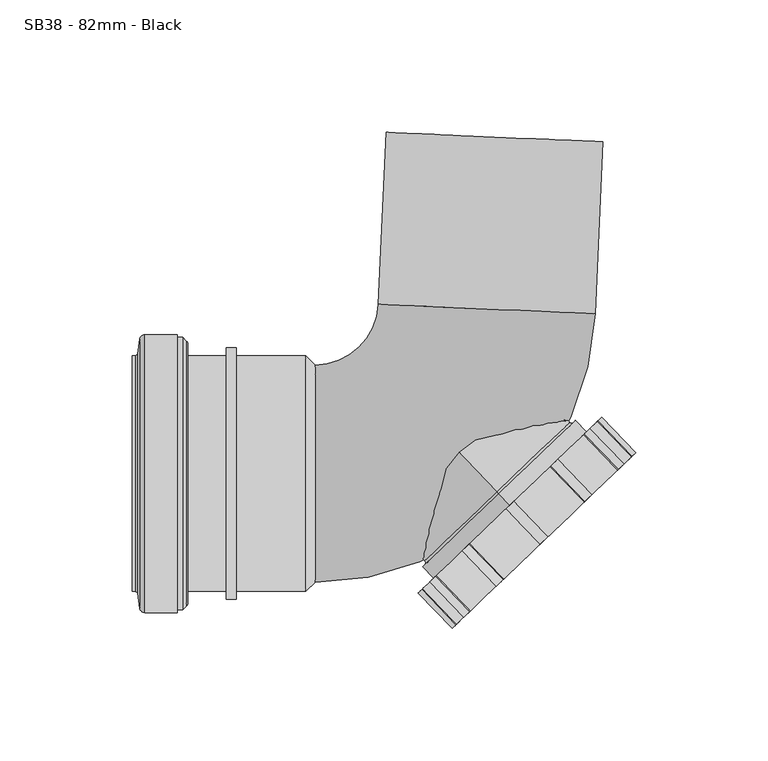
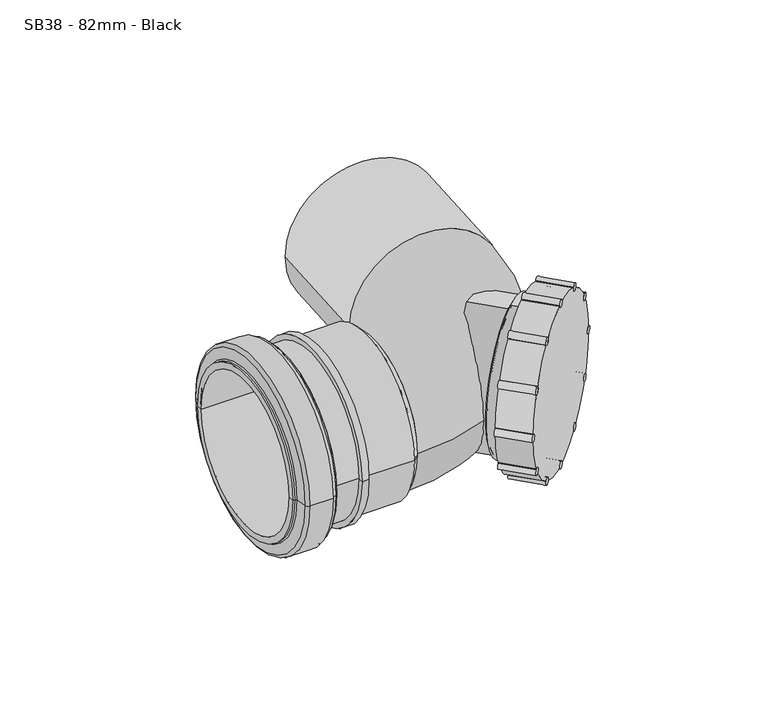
"""IFC4 building model written with IfcOpenShell, lengths in millimetres: pipe fitting geometry, MarleyPlumbingAndDrainage_PipeFitting_RearAccessBend : SB38 - 82mm - Black."""

import ifcopenshell
import ifcopenshell.guid

model = None  # the IFC model being written
_history = None  # IfcOwnerHistory: only IFC2X3 demands one
_inside = {}  # id of a spatial element -> (the spatial element, [elements in it])
_under = {}  # id of a project, library or spatial element -> (it, [spatial elements below it])
_declared = {}  # id of a project -> (the project, [libraries it declares])
_typed = {}  # id of a type object -> (the type object, [elements of that type])
_made_of = {}  # id of a material, layer set ... -> (it, [elements and type objects made of it])


def new_model(schema):
    """Start an empty IFC model of exactly this schema.

    Asked for "IFC4X3", IfcOpenShell would pick the latest addendum, in which some entities
    have other attributes; the version numbers below select the first issue.
    IFC2X3 requires an IfcOwnerHistory on every rooted entity: one is made here for all.
    """
    global model, _history
    if schema == "IFC4X3":
        model = ifcopenshell.file(schema_version=(4, 3, 0, 0))
    else:
        model = ifcopenshell.file(schema=schema)
    _inside.clear()
    _under.clear()
    _declared.clear()
    _typed.clear()
    _made_of.clear()
    _history = None
    if model.schema == "IFC2X3":
        org = make("IfcOrganization", Name="unknown")
        user = make(
            "IfcPersonAndOrganization",
            ThePerson=make("IfcPerson", FamilyName="unknown"),
            TheOrganization=org,
        )
        app = make(
            "IfcApplication",
            ApplicationDeveloper=org,
            Version="unknown",
            ApplicationFullName="unknown",
            ApplicationIdentifier="unknown",
        )
        _history = make(
            "IfcOwnerHistory",
            OwningUser=user,
            OwningApplication=app,
            ChangeAction="ADDED",
            CreationDate=0,
        )
    return model


def make(cls, **values):
    """One entity of the class cls with the attributes given. An attribute that is None is left unset."""
    return model.create_entity(
        cls, **{name: value for name, value in values.items() if value is not None}
    )


def rooted(cls, **values):
    """An entity with a GlobalId (a new one), such as an element, a storey or a relation."""
    return make(cls, GlobalId=ifcopenshell.guid.new(), OwnerHistory=_history, **values)


def si_unit(unit_type, name, prefix=None):
    """IfcSIUnit, for example si_unit("LENGTHUNIT", "METRE", prefix="MILLI")."""
    return make("IfcSIUnit", UnitType=unit_type, Prefix=prefix, Name=name)


def assignment(units):
    """IfcUnitAssignment: the units of a project."""
    return None if units is None else make("IfcUnitAssignment", Units=units)


def point(xyz):
    """IfcCartesianPoint."""
    return None if xyz is None else make("IfcCartesianPoint", Coordinates=xyz)


def direction(xyz):
    """IfcDirection."""
    return None if xyz is None else make("IfcDirection", DirectionRatios=xyz)


def frame(location, z_axis=None, x_axis=None):
    """IfcAxis2Placement3D, a coordinate frame: its origin and axes. An axis left out is left unset."""
    return make(
        "IfcAxis2Placement3D",
        Location=point(location),
        Axis=direction(z_axis),
        RefDirection=direction(x_axis),
    )


def frame_2d(location, x_axis=None):
    """IfcAxis2Placement2D, a coordinate frame in the plane: its origin and x axis."""
    return make(
        "IfcAxis2Placement2D", Location=point(location), RefDirection=direction(x_axis)
    )


def origin():
    """The frame at (0, 0, 0) with its axes left unset."""
    return frame((0.0, 0.0, 0.0))


def place(relative_to, where):
    """IfcLocalPlacement: puts the frame where relative to a parent placement (None: the world)."""
    return make(
        "IfcLocalPlacement", PlacementRelTo=relative_to, RelativePlacement=where
    )


def context(
    kind, dimensions, precision=None, world=None, true_north=None, identifier=None
):
    """IfcGeometricRepresentationContext, for example the 3D "Model" context."""
    return make(
        "IfcGeometricRepresentationContext",
        ContextIdentifier=identifier,
        ContextType=kind,
        CoordinateSpaceDimension=dimensions,
        Precision=precision,
        WorldCoordinateSystem=world,
        TrueNorth=true_north,
    )


def project(units=None, contexts=None):
    """IfcProject with its units and contexts."""
    return rooted(
        "IfcProject",
        Name="project",
        RepresentationContexts=contexts,
        UnitsInContext=assignment(units),
    )


def spatial(cls, under=None, at=None, **own):
    """A site, building, storey or space (cls), placed at a placement, below another one or the project."""
    s = rooted(cls, ObjectPlacement=at, **own)
    if under is not None:
        _under.setdefault(under.id(), (under, []))[1].append(s)
    return s


def polyline(points):
    """IfcPolyline through the points."""
    return make("IfcPolyline", Points=[point(p) for p in points])


def circle_curve(where, radius):
    """IfcCircle in the frame where."""
    return make("IfcCircle", Position=where, Radius=radius)


def ellipse_curve(where, semi_axis1, semi_axis2):
    """IfcEllipse in the frame where."""
    return make(
        "IfcEllipse", Position=where, SemiAxis1=semi_axis1, SemiAxis2=semi_axis2
    )


def trimmed(basis, trim1, trim2, sense, master):
    """IfcTrimmedCurve: the piece of a basis curve between two trims."""
    return make(
        "IfcTrimmedCurve",
        BasisCurve=basis,
        Trim1=trim1,
        Trim2=trim2,
        SenseAgreement=sense,
        MasterRepresentation=master,
    )


def segment(curve, same_sense, transition):
    """IfcCompositeCurveSegment."""
    return make(
        "IfcCompositeCurveSegment",
        Transition=transition,
        SameSense=same_sense,
        ParentCurve=curve,
    )


def composite_curve(segments, self_intersect=None):
    """IfcCompositeCurve: segments joined end to end."""
    return make("IfcCompositeCurve", Segments=segments, SelfIntersect=self_intersect)


def outline(outer, holes=None, kind="AREA"):
    """IfcArbitraryClosedProfileDef: a profile drawn as a closed curve; with holes, ...WithVoids."""
    if holes is None:
        return make("IfcArbitraryClosedProfileDef", ProfileType=kind, OuterCurve=outer)
    return make(
        "IfcArbitraryProfileDefWithVoids",
        ProfileType=kind,
        OuterCurve=outer,
        InnerCurves=holes,
    )


def extrude(swept, where, along, depth):
    """IfcExtrudedAreaSolid: the profile swept, set in the frame where, extruded along a direction by depth."""
    return make(
        "IfcExtrudedAreaSolid",
        SweptArea=swept,
        Position=where,
        ExtrudedDirection=direction(along),
        Depth=depth,
    )


def shape(context_of_items, identifier, shape_type, items):
    """IfcShapeRepresentation: the items that make up one representation, for example the "Body"."""
    return make(
        "IfcShapeRepresentation",
        ContextOfItems=context_of_items,
        RepresentationIdentifier=identifier,
        RepresentationType=shape_type,
        Items=items,
    )


def source(mapping_origin, context_of_items, identifier, shape_type, items):
    """IfcRepresentationMap: a shape defined once, which mapped items show again and again."""
    return make(
        "IfcRepresentationMap",
        MappingOrigin=mapping_origin,
        MappedRepresentation=shape(context_of_items, identifier, shape_type, items),
    )


def transform(
    local_origin,
    x_axis=None,
    y_axis=None,
    z_axis=None,
    scale=None,
    scale2=None,
    scale3=None,
    uniform=True,
):
    """IfcCartesianTransformationOperator3D, or its non-uniform kind. x_axis, y_axis, z_axis: its Axis1, 2, 3."""
    if uniform:
        return make(
            "IfcCartesianTransformationOperator3D",
            Axis1=direction(x_axis),
            Axis2=direction(y_axis),
            LocalOrigin=point(local_origin),
            Scale=scale,
            Axis3=direction(z_axis),
        )
    return make(
        "IfcCartesianTransformationOperator3DnonUniform",
        Axis1=direction(x_axis),
        Axis2=direction(y_axis),
        LocalOrigin=point(local_origin),
        Scale=scale,
        Axis3=direction(z_axis),
        Scale2=scale2,
        Scale3=scale3,
    )


def mapped(mapping_source, mapping_target):
    """IfcMappedItem: shows the shape of a source again, moved by a transform."""
    return make(
        "IfcMappedItem", MappingSource=mapping_source, MappingTarget=mapping_target
    )


def made_of(thing, what):
    """Note that an element or type object is made of a material, layer set ...; save() writes the relation."""
    if what is not None:
        _made_of.setdefault(what.id(), (what, []))[1].append(thing)
    return thing


def element(
    cls,
    number,
    at=None,
    inside=None,
    cuts=None,
    type_object=None,
    material=None,
    context=None,
    identifier="Body",
    shape_type=None,
    held_by="IfcProductDefinitionShape",
    body=None,
    shapes=None,
    **own,
):
    """One element of the class cls, such as IfcWall. Its Tag is "e" and its number.

    at: its placement. inside: the storey or other place that contains it. cuts: it is an
    opening in that element (IfcRelVoidsElement). A single representation is given by context,
    identifier, shape_type and body (its items); several are given by shapes. held_by: the class
    of the entity that holds the representations. save() writes the other relations.
    """
    e = rooted(cls, Tag="e%d" % number, ObjectPlacement=at, **own)
    if body is not None:
        shapes = [shape(context, identifier, shape_type, body)]
    if shapes is not None:
        e.Representation = make(held_by, Representations=shapes)
    if inside is not None:
        _inside.setdefault(inside.id(), (inside, []))[1].append(e)
    if cuts is not None:
        rooted(
            "IfcRelVoidsElement", RelatingBuildingElement=cuts, RelatedOpeningElement=e
        )
    if type_object is not None:
        _typed.setdefault(type_object.id(), (type_object, []))[1].append(e)
    return made_of(e, material)


def aggregate(whole, parts):
    """IfcRelAggregates: a whole, such as a stair, and the parts it consists of."""
    return rooted("IfcRelAggregates", RelatingObject=whole, RelatedObjects=parts)


def save(model, path):
    """Write the relations noted so far, then the file.

    IfcRelAggregates (storeys below a building ...), IfcRelContainedInSpatialStructure (elements
    in a storey), IfcRelDefinesByType, IfcRelAssociatesMaterial and IfcRelDeclares: one each for
    every whole, place, type object, material and project.
    """
    for whole, parts in _under.values():
        aggregate(whole, parts)
    for where, things in _inside.values():
        rooted(
            "IfcRelContainedInSpatialStructure",
            RelatedElements=things,
            RelatingStructure=where,
        )
    for kind, things in _typed.values():
        rooted("IfcRelDefinesByType", RelatedObjects=things, RelatingType=kind)
    for what, things in _made_of.values():
        rooted("IfcRelAssociatesMaterial", RelatedObjects=things, RelatingMaterial=what)
    for by, libraries in _declared.values():
        rooted("IfcRelDeclares", RelatingContext=by, RelatedDefinitions=libraries)
    model.write(path)


def plane_surface(at):
    """IfcPlane: the flat surface through the origin of the frame at, square to its z axis."""
    return make("IfcPlane", Position=at)


def cylinder_surface(at, radius):
    """IfcCylindricalSurface: all points at the distance radius from the z axis of the frame at."""
    return make("IfcCylindricalSurface", Position=at, Radius=radius)


def revolved_surface(curve, axis_point, axis_direction):
    """IfcSurfaceOfRevolution: the curve turned about the line through axis_point along axis_direction."""
    return make(
        "IfcSurfaceOfRevolution",
        SweptCurve=make("IfcArbitraryOpenProfileDef", ProfileType="CURVE", Curve=curve),
        AxisPosition=make("IfcAxis1Placement", Location=point(axis_point), Axis=direction(axis_direction)),
    )


def advanced_brep(points, edges, surfaces, faces):
    """IfcAdvancedBrep: a solid bounded by faces that lie on surfaces and meet in shared edges.

    An edge is (start, end): straight between two places in points (the first is 0);
    or (start, end, curve); or (start, end, curve, False) where it runs against its curve.
    A face is (place in surfaces, loops), or (place, loops, False) where it looks against
    its surface's normal. A loop lists edges by number (the first is 1), with a minus sign
    where the edge is run from its end to its start. The first loop is the outer one.
    """
    corners = [point(p) for p in points]
    vertices = [make("IfcVertexPoint", VertexGeometry=c) for c in corners]
    made = []
    for start, end, *more in edges:
        made.append(
            make(
                "IfcEdgeCurve",
                EdgeStart=vertices[start],
                EdgeEnd=vertices[end],
                EdgeGeometry=more[0] if more else make("IfcPolyline", Points=[corners[start], corners[end]]),
                SameSense=more[1] if len(more) > 1 else True,
            )
        )
    hull = []
    for where, loops, *sense in faces:
        bounds = []
        for j, loop in enumerate(loops):
            ring = [make("IfcOrientedEdge", EdgeElement=made[abs(k) - 1], Orientation=k > 0) for k in loop]
            bounds.append(
                make(
                    "IfcFaceOuterBound" if j == 0 else "IfcFaceBound",
                    Bound=make("IfcEdgeLoop", EdgeList=ring),
                    Orientation=True,
                )
            )
        hull.append(make("IfcAdvancedFace", Bounds=bounds, FaceSurface=surfaces[where], SameSense=sense[0] if sense else True))
    return make("IfcAdvancedBrep", Outer=make("IfcClosedShell", CfsFaces=hull))


def sb38_82mm_black_0876d828(model_context):
    return source(origin(), model_context, "Body", "SolidModel", [
        extrude(outline(composite_curve([segment(trimmed(circle_curve(frame_2d((0.0, -2.0)), 2.0), [point((0.0, -4.0))], [point((0.0, 0.0))], False, "CARTESIAN"), True, "CONTINUOUS"), segment(trimmed(circle_curve(frame_2d((0.0, -2.0)), 2.0), [point((0.0, 0.0))], [point((0.0, -4.0))], False, "CARTESIAN"), True, "CONTINUOUS")], self_intersect=False)), frame((52.1476795, 2.94394, 21.2679492), z_axis=(-0.6915130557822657, 0.7223639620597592, 0.0), x_axis=(0.6255855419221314, 0.5988678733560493, 0.4999999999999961)), (0.0, 0.0, 1.0), 18.5),
        extrude(outline(composite_curve([segment(trimmed(circle_curve(frame_2d((0.0, -2.0)), 2.0), [point((0.0, -4.0))], [point((0.0, 0.0))], False, "CARTESIAN"), True, "CONTINUOUS"), segment(trimmed(circle_curve(frame_2d((0.0, -2.0)), 2.0), [point((0.0, 0.0))], [point((0.0, -4.0))], False, "CARTESIAN"), True, "CONTINUOUS")], self_intersect=False)), frame((55.8771229, 6.5141053, -2.0), z_axis=(-0.6915130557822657, 0.7223639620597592, 0.0), x_axis=(0.7223639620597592, 0.6915130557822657, 0.0)), (0.0, 0.0, 1.0), 18.5),
        extrude(outline(composite_curve([segment(trimmed(circle_curve(frame_2d((0.0, -2.0)), 2.0), [point((0.0, -4.0))], [point((0.0, 0.0))], False, "CARTESIAN"), True, "CONTINUOUS"), segment(trimmed(circle_curve(frame_2d((0.0, -2.0)), 2.0), [point((0.0, 0.0))], [point((0.0, -4.0))], False, "CARTESIAN"), True, "CONTINUOUS")], self_intersect=False)), frame((50.7029516, 1.5609139, -24.7320508), z_axis=(-0.6915130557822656, 0.7223639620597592, 0.0), x_axis=(0.6255855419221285, 0.5988678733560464, -0.5000000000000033)), (0.0, 0.0, 1.0), 18.5),
        extrude(outline(composite_curve([segment(trimmed(circle_curve(frame_2d((0.0, -2.0)), 2.0), [point((0.0, -4.0))], [point((0.0, 0.0))], False, "CARTESIAN"), True, "CONTINUOUS"), segment(trimmed(circle_curve(frame_2d((0.0, -2.0)), 2.0), [point((0.0, 0.0))], [point((0.0, -4.0))], False, "CARTESIAN"), True, "CONTINUOUS")], self_intersect=False)), frame((38.0115807, -10.5884307, -40.8371686), z_axis=(-0.6915130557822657, 0.7223639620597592, 0.0), x_axis=(0.3611819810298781, 0.3457565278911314, -0.8660254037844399)), (0.0, 0.0, 1.0), 18.5),
        extrude(outline(composite_curve([segment(trimmed(circle_curve(frame_2d((0.0, -2.0)), 2.0), [point((0.0, -4.0000001))], [point((0.0, 0.0))], False, "CARTESIAN"), True, "CONTINUOUS"), segment(trimmed(circle_curve(frame_2d((0.0, -2.0)), 2.0), [point((0.0, 0.0))], [point((0.0, -4.0000001))], False, "CARTESIAN"), True, "CONTINUOUS")], self_intersect=False)), frame((21.2036527, -26.6785214, -46.0), z_axis=(-0.6915130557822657, 0.7223639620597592, 0.0), x_axis=(0.0, 0.0, -1.0)), (0.0, 0.0, 1.0), 18.5),
        extrude(outline(composite_curve([segment(trimmed(circle_curve(frame_2d((0.0, -2.0)), 2.0), [point((0.0, -4.0))], [point((0.0, 0.0))], False, "CARTESIAN"), True, "CONTINUOUS"), segment(trimmed(circle_curve(frame_2d((0.0, -2.0)), 2.0), [point((0.0, 0.0))], [point((0.0, -4.0))], False, "CARTESIAN"), True, "CONTINUOUS")], self_intersect=False)), frame((4.7828384, -42.3980313, -38.8371686), z_axis=(-0.6915130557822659, 0.7223639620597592, 0.0), x_axis=(-0.3611819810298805, -0.3457565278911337, -0.866025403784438)), (0.0, 0.0, 1.0), 18.5),
        extrude(outline(composite_curve([segment(trimmed(circle_curve(frame_2d((0.0, -2.0)), 2.0), [point((0.0, -4.0))], [point((0.0, 0.0))], False, "CARTESIAN"), True, "CONTINUOUS"), segment(trimmed(circle_curve(frame_2d((0.0, -2.0)), 2.0), [point((0.0, 0.0))], [point((0.0, -4.0))], False, "CARTESIAN"), True, "CONTINUOUS")], self_intersect=False)), frame((-6.8509182, -53.5349305, -21.2679492), z_axis=(-0.6915130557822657, 0.7223639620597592, 0.0), x_axis=(-0.6255855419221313, -0.5988678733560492, -0.4999999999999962)), (0.0, 0.0, 1.0), 18.5),
        extrude(outline(composite_curve([segment(trimmed(circle_curve(frame_2d((0.0, -2.0)), 2.0), [point((0.0, -4.0))], [point((0.0, 0.0))], False, "CARTESIAN"), True, "CONTINUOUS"), segment(trimmed(circle_curve(frame_2d((0.0, -2.0)), 2.0), [point((0.0, 0.0))], [point((0.0, -4.0))], False, "CARTESIAN"), True, "CONTINUOUS")], self_intersect=False)), frame((-10.5803616, -57.1050958, 2.0), z_axis=(-0.6915130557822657, 0.7223639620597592, 0.0), x_axis=(-0.7223639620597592, -0.6915130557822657, 0.0)), (0.0, 0.0, 1.0), 18.5),
        extrude(outline(composite_curve([segment(trimmed(circle_curve(frame_2d((0.0, -2.0)), 2.0), [point((0.0, -4.0))], [point((0.0, 0.0))], False, "CARTESIAN"), True, "CONTINUOUS"), segment(trimmed(circle_curve(frame_2d((0.0, -2.0)), 2.0), [point((0.0, 0.0))], [point((0.0, -4.0))], False, "CARTESIAN"), True, "CONTINUOUS")], self_intersect=False)), frame((-5.4061903, -52.1519044, 24.7320508), z_axis=(-0.6915130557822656, 0.7223639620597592, 0.0), x_axis=(-0.6255855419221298, -0.5988678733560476, 0.5000000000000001)), (0.0, 0.0, 1.0), 18.5),
        extrude(outline(composite_curve([segment(trimmed(circle_curve(frame_2d((0.0, -2.0)), 2.0), [point((0.0, -4.0))], [point((0.0, 0.0))], False, "CARTESIAN"), True, "CONTINUOUS"), segment(trimmed(circle_curve(frame_2d((0.0, -2.0)), 2.0), [point((0.0, 0.0))], [point((0.0, -4.0))], False, "CARTESIAN"), True, "CONTINUOUS")], self_intersect=False)), frame((7.2851806, -40.0025598, 40.8371686), z_axis=(-0.6915130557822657, 0.7223639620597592, 0.0), x_axis=(-0.3611819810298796, -0.34575652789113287, 0.8660254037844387)), (0.0, 0.0, 1.0), 18.5),
        extrude(outline(composite_curve([segment(trimmed(circle_curve(frame_2d((0.0, -2.0)), 2.0), [point((0.0, -4.0))], [point((0.0, 0.0))], False, "CARTESIAN"), True, "CONTINUOUS"), segment(trimmed(circle_curve(frame_2d((0.0, -2.0)), 2.0), [point((0.0, 0.0))], [point((0.0, -4.0))], False, "CARTESIAN"), True, "CONTINUOUS")], self_intersect=False)), frame((40.5139229, -8.1929592, 38.8371686), z_axis=(-0.6915130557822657, 0.7223639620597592, 0.0), x_axis=(0.36118198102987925, 0.34575652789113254, 0.8660254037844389)), (0.0, 0.0, 1.0), 18.5),
        extrude(outline(composite_curve([segment(trimmed(circle_curve(frame_2d((0.0, -2.0)), 2.0), [point((0.0, -4.0000001))], [point((0.0, 0.0))], False, "CARTESIAN"), True, "CONTINUOUS"), segment(trimmed(circle_curve(frame_2d((0.0, -2.0)), 2.0), [point((0.0, 0.0))], [point((0.0, -4.0000001))], False, "CARTESIAN"), True, "CONTINUOUS")], self_intersect=False)), frame((24.0931086, -23.9124691, 46.0), z_axis=(-0.6915130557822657, 0.7223639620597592, 0.0), x_axis=(0.0, 0.0, 1.0)), (0.0, 0.0, 1.0), 18.5),
        advanced_brep(
        [(5.7063108, -7.5975782, -40.0), (5.7063108, -7.5975782, 40.0), (9.8553891, -11.931762, 40.0), (9.8553891, -11.931762, -40.0), (5.7063108, -7.5975782, -39.0), (5.7063108, -7.5975782, 39.0), (5.0147977, -6.8752142, -38.0), (5.0147977, -6.8752142, 38.0), (-18.8424027, 18.0463425, -38.0), (-18.8424027, 18.0463425, 38.0), (-18.8424027, 18.0463425, 0.0), (-10.5803616, -57.1050958, 0.0), (55.8771229, 6.5141053, 0.0), (-23.3733531, -43.7413625, 0.0), (43.0841314, 19.8778386, 0.0)],
        [
            (0, 1, circle_curve(frame((5.7063108, -7.5975782, 0.0), z_axis=(0.6915130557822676, -0.7223639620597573, 0.0), x_axis=(0.0, 0.0, 1.0)), 40.0)),
            (1, 2),
            (2, 3, circle_curve(frame((9.8553891, -11.931762, 0.0), z_axis=(-0.6915130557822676, 0.7223639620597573, 0.0), x_axis=(0.0, 0.0, 1.0)), 40.0)),
            (3, 0),
            (1, 0, circle_curve(frame((5.7063108, -7.5975782, 0.0), z_axis=(0.6915130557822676, -0.7223639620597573, 0.0), x_axis=(0.0, 0.0, 1.0)), 40.0)),
            (3, 2, circle_curve(frame((9.8553891, -11.931762, 0.0), z_axis=(-0.6915130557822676, 0.7223639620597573, 0.0), x_axis=(0.0, 0.0, 1.0)), 40.0)),
            (0, 4),
            (4, 5, circle_curve(frame((5.7063108, -7.5975782, 0.0), z_axis=(0.6915130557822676, -0.7223639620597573, 0.0), x_axis=(0.0, 0.0, 1.0)), 39.0)),
            (5, 1),
            (5, 4, circle_curve(frame((5.7063108, -7.5975782, 0.0), z_axis=(0.6915130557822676, -0.7223639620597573, 0.0), x_axis=(0.0, 0.0, 1.0)), 39.0)),
            (4, 6, circle_curve(frame((5.0147977, -6.8752142, -39.0), z_axis=(-0.7223639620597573, -0.6915130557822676, 0.0), x_axis=(0.6915130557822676, -0.7223639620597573, 0.0)), 1.0)),
            (6, 7, circle_curve(frame((5.0147977, -6.8752142, 0.0), z_axis=(0.6915130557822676, -0.7223639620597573, 0.0), x_axis=(0.0, 0.0, 1.0)), 38.0)),
            (7, 5, circle_curve(frame((5.0147977, -6.8752142, 39.0), z_axis=(-0.7223639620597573, -0.6915130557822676, 0.0), x_axis=(0.6915130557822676, -0.7223639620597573, 0.0)), 1.0)),
            (7, 6, circle_curve(frame((5.0147977, -6.8752142, 0.0), z_axis=(0.6915130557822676, -0.7223639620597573, 0.0), x_axis=(0.0, 0.0, 1.0)), 38.0)),
            (6, 8),
            (8, 9, circle_curve(frame((-18.8424027, 18.0463425, 0.0), z_axis=(0.6915130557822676, -0.7223639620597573, 0.0), x_axis=(0.0, 0.0, 1.0)), 38.0)),
            (9, 7),
            (9, 8, circle_curve(frame((-18.8424027, 18.0463425, 0.0), z_axis=(0.6915130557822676, -0.7223639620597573, 0.0), x_axis=(0.0, 0.0, 1.0)), 38.0)),
            (8, 10),
            (10, 9),
            (11, 12, circle_curve(frame((22.6483807, -25.2954953, 0.0), z_axis=(0.6915130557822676, -0.7223639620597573, 0.0), x_axis=(0.7223639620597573, 0.6915130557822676, 0.0)), 46.0)),
            (12, 11, circle_curve(frame((22.6483807, -25.2954953, 0.0), z_axis=(0.6915130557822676, -0.7223639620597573, 0.0), x_axis=(0.7223639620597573, 0.6915130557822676, 0.0)), 46.0)),
            (13, 14, circle_curve(frame((9.8553891, -11.931762, 0.0), z_axis=(-0.6915130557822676, 0.7223639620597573, 0.0), x_axis=(0.7223639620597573, 0.6915130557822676, 0.0)), 46.0)),
            (14, 13, circle_curve(frame((9.8553891, -11.931762, 0.0), z_axis=(-0.6915130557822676, 0.7223639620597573, 0.0), x_axis=(0.7223639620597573, 0.6915130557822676, 0.0)), 46.0)),
            (11, 13),
            (14, 12),
        ],
        [
            cylinder_surface(frame((-819.8525027, 854.7924092, 0.0), z_axis=(-0.6915130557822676, 0.7223639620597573, 0.0), x_axis=(0.0, 0.0, 1.0)), 40.0),
            plane_surface(frame((5.7063108, -7.5975782, 0.0), z_axis=(-0.6915130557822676, 0.7223639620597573, 0.0), x_axis=(0.0, 0.0, 1.0))),
            revolved_surface(trimmed(ellipse_curve(frame((5.0147977, -6.8752142, 39.0), z_axis=(0.7223639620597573, 0.6915130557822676, 0.0), x_axis=(0.6915130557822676, -0.7223639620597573, 0.0)), 1.0, 1.0), [point((5.7063108, -7.5975782, 39.0))], [point((5.0147977, -6.8752142, 38.0))], True, "CARTESIAN"), (-819.8525027, 854.7924092, 0.0), (-0.6915130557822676, 0.7223639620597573, 0.0)),
            cylinder_surface(frame((-819.8525027, 854.7924092, 0.0), z_axis=(-0.6915130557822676, 0.7223639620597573, 0.0), x_axis=(0.0, 0.0, 1.0)), 38.0),
            plane_surface(frame((-18.8424027, 18.0463425, 0.0), z_axis=(-0.6915130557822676, 0.7223639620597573, 0.0), x_axis=(0.0, 0.0, 1.0))),
            plane_surface(frame((55.8771229, 6.5141053, 0.0), z_axis=(0.6915130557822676, -0.7223639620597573, 0.0), x_axis=(0.0, 0.0, 1.0))),
            plane_surface(frame((43.0841314, 19.8778386, 0.0), z_axis=(-0.6915130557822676, 0.7223639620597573, 0.0), x_axis=(0.0, 0.0, -1.0))),
            cylinder_surface(frame((9.8553891, -11.931762, 0.0), z_axis=(0.6915130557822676, -0.7223639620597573, 0.0), x_axis=(0.7223639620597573, 0.6915130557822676, 0.0)), 46.0),
        ],
        [
            (0, [[1, 2, 3, 4]]),
            (0, [[-2, 5, -4, 6]]),
            (1, [[-1, 7, 8, 9]]),
            (1, [[-5, -9, 10, -7]]),
            (2, [[-8, 11, 12, 13]]),
            (2, [[-10, -13, 14, -11]]),
            (3, [[-12, 15, 16, 17]]),
            (3, [[-14, -17, 18, -15]]),
            (4, [[-16, 19, 20]]),
            (4, [[-18, -20, -19]]),
            (5, [[21, 22]]),
            (6, [[23, 24], [-3, -6]]),
            (7, [[-21, 25, -24, 26]]),
            (7, [[-22, -26, -23, -25]]),
        ],
    ),
        advanced_brep(
        [(-130.0360595, -50.7828427, -0.1429746), (-130.0360595, 50.7828427, -0.1429746), (-130.8307513, 45.22, -0.1429746), (-130.8307513, -45.22, -0.1429746), (-115.7907513, -52.5, -0.1429746), (-115.7907513, 52.5, -0.1429746), (-128.0561605, 52.5, -0.1429746), (-128.0561605, -52.5, -0.1429746), (-111.7907513, -44.5, -0.1429746), (-111.7907513, 44.5, -0.1429746), (-111.7907513, 48.6583837, -0.1429746), (-111.7907513, -48.6583837, -0.1429746), (-97.302167, -44.5, -0.1429746), (-97.302167, 44.5, -0.1429746), (-63.7907513, -41.0, -0.1429746), (-63.7907513, 41.0, -0.1429746), (-67.2907513, 44.5, -0.1429746), (-67.2907513, -44.5, -0.1429746), (-132.7907513, -41.0, -0.1429746), (-132.7907513, 41.0, -0.1429746), (-68.7907513, 41.0, -0.1429746), (-68.7907513, -41.0, -0.1429746), (-132.7907513, -44.5, -0.1429746), (-132.7907513, 44.5, -0.1429746), (-131.7907513, -44.5, -0.1429746), (-131.7907513, 44.5, -0.1429746), (-97.302167, -47.5, -0.1429746), (-97.302167, 47.5, -0.1429746), (-93.5667881, -47.5, -0.1429746), (-93.5667881, 47.5, -0.1429746), (-93.5667881, -44.5, -0.1429746), (-93.5667881, 44.5, -0.1429746), (-63.7907513, 0.0, -0.1429746), (-68.7907513, 0.0, -0.1429746), (-115.7907513, -51.4583837, -0.1429746), (-115.7907513, 51.4583837, -0.1429746), (-113.754733, -51.4583837, -0.1429746), (-113.754733, 51.4583837, -0.1429746), (-112.3819055, -50.0855562, -0.1429746), (-112.3819055, 50.0855562, -0.1429746)],
        [
            (0, 1, circle_curve(frame((-130.0360595, 0.0, -0.1429746), z_axis=(-1.0, 0.0, 0.0), x_axis=(0.0, 1.0, 0.0)), 50.7828427)),
            (1, 2),
            (2, 3, circle_curve(frame((-130.8307513, 0.0, -0.1429746), z_axis=(1.0, 0.0, 0.0), x_axis=(0.0, 1.0, 0.0)), 45.22)),
            (3, 0),
            (1, 0, circle_curve(frame((-130.0360595, 0.0, -0.1429746), z_axis=(-1.0, 0.0, 0.0), x_axis=(0.0, 1.0, 0.0)), 50.7828427)),
            (3, 2, circle_curve(frame((-130.8307513, 0.0, -0.1429746), z_axis=(1.0, 0.0, 0.0), x_axis=(0.0, 1.0, 0.0)), 45.22)),
            (4, 5, circle_curve(frame((-115.7907513, 0.0, -0.1429746), z_axis=(-1.0, 0.0, 0.0), x_axis=(0.0, 1.0, 0.0)), 52.5)),
            (5, 6),
            (6, 7, circle_curve(frame((-128.0561605, 0.0, -0.1429746), z_axis=(1.0, 0.0, 0.0), x_axis=(0.0, 1.0, 0.0)), 52.5)),
            (7, 4),
            (5, 4, circle_curve(frame((-115.7907513, 0.0, -0.1429746), z_axis=(-1.0, 0.0, 0.0), x_axis=(0.0, 1.0, 0.0)), 52.5)),
            (7, 6, circle_curve(frame((-128.0561605, 0.0, -0.1429746), z_axis=(1.0, 0.0, 0.0), x_axis=(0.0, 1.0, 0.0)), 52.5)),
            (8, 9, circle_curve(frame((-111.7907513, 0.0, -0.1429746), z_axis=(-1.0, 0.0, 0.0), x_axis=(0.0, 1.0, 0.0)), 44.5)),
            (9, 10),
            (10, 11, circle_curve(frame((-111.7907513, 0.0, -0.1429746), z_axis=(1.0, 0.0, 0.0), x_axis=(0.0, 1.0, 0.0)), 48.6583837)),
            (11, 8),
            (9, 8, circle_curve(frame((-111.7907513, 0.0, -0.1429746), z_axis=(-1.0, 0.0, 0.0), x_axis=(0.0, 1.0, 0.0)), 44.5)),
            (11, 10, circle_curve(frame((-111.7907513, 0.0, -0.1429746), z_axis=(1.0, 0.0, 0.0), x_axis=(0.0, 1.0, 0.0)), 48.6583837)),
            (12, 13, circle_curve(frame((-97.302167, 0.0, -0.1429746), z_axis=(-1.0, 0.0, 0.0), x_axis=(0.0, 1.0, 0.0)), 44.5)),
            (13, 9),
            (8, 12),
            (13, 12, circle_curve(frame((-97.302167, 0.0, -0.1429746), z_axis=(-1.0, 0.0, 0.0), x_axis=(0.0, 1.0, 0.0)), 44.5)),
            (14, 15, circle_curve(frame((-63.7907513, 0.0, -0.1429746), z_axis=(-1.0, 0.0, 0.0), x_axis=(0.0, 1.0, 0.0)), 41.0)),
            (15, 16),
            (16, 17, circle_curve(frame((-67.2907513, 0.0, -0.1429746), z_axis=(1.0, 0.0, 0.0), x_axis=(0.0, 1.0, 0.0)), 44.5)),
            (17, 14),
            (15, 14, circle_curve(frame((-63.7907513, 0.0, -0.1429746), z_axis=(-1.0, 0.0, 0.0), x_axis=(0.0, 1.0, 0.0)), 41.0)),
            (17, 16, circle_curve(frame((-67.2907513, 0.0, -0.1429746), z_axis=(1.0, 0.0, 0.0), x_axis=(0.0, 1.0, 0.0)), 44.5)),
            (18, 19, circle_curve(frame((-132.7907513, 0.0, -0.1429746), z_axis=(-1.0, 0.0, 0.0), x_axis=(0.0, 1.0, 0.0)), 41.0)),
            (19, 20),
            (20, 21, circle_curve(frame((-68.7907513, 0.0, -0.1429746), z_axis=(1.0, 0.0, 0.0), x_axis=(0.0, 1.0, 0.0)), 41.0)),
            (21, 18),
            (19, 18, circle_curve(frame((-132.7907513, 0.0, -0.1429746), z_axis=(-1.0, 0.0, 0.0), x_axis=(0.0, 1.0, 0.0)), 41.0)),
            (21, 20, circle_curve(frame((-68.7907513, 0.0, -0.1429746), z_axis=(1.0, 0.0, 0.0), x_axis=(0.0, 1.0, 0.0)), 41.0)),
            (22, 23, circle_curve(frame((-132.7907513, 0.0, -0.1429746), z_axis=(-1.0, 0.0, 0.0), x_axis=(0.0, 1.0, 0.0)), 44.5)),
            (23, 19),
            (18, 22),
            (23, 22, circle_curve(frame((-132.7907513, 0.0, -0.1429746), z_axis=(-1.0, 0.0, 0.0), x_axis=(0.0, 1.0, 0.0)), 44.5)),
            (24, 25, circle_curve(frame((-131.7907513, 0.0, -0.1429746), z_axis=(-1.0, 0.0, 0.0), x_axis=(0.0, 1.0, 0.0)), 44.5)),
            (25, 23),
            (22, 24),
            (25, 24, circle_curve(frame((-131.7907513, 0.0, -0.1429746), z_axis=(-1.0, 0.0, 0.0), x_axis=(0.0, 1.0, 0.0)), 44.5)),
            (2, 25, circle_curve(frame((-131.7907513, 45.5, -0.1429746), z_axis=(0.0, 0.0, -1.0), x_axis=(0.0, -1.0, 0.0)), 1.0)),
            (24, 3, circle_curve(frame((-131.7907513, -45.5, -0.1429746), z_axis=(0.0, 0.0, -1.0), x_axis=(0.0, 1.0, 0.0)), 1.0)),
            (26, 27, circle_curve(frame((-97.302167, 0.0, -0.1429746), z_axis=(-1.0, 0.0, 0.0), x_axis=(0.0, 1.0, 0.0)), 47.5)),
            (27, 13),
            (12, 26),
            (27, 26, circle_curve(frame((-97.302167, 0.0, -0.1429746), z_axis=(-1.0, 0.0, 0.0), x_axis=(0.0, 1.0, 0.0)), 47.5)),
            (28, 29, circle_curve(frame((-93.5667881, 0.0, -0.1429746), z_axis=(-1.0, 0.0, 0.0), x_axis=(0.0, 1.0, 0.0)), 47.5)),
            (29, 27),
            (26, 28),
            (29, 28, circle_curve(frame((-93.5667881, 0.0, -0.1429746), z_axis=(-1.0, 0.0, 0.0), x_axis=(0.0, 1.0, 0.0)), 47.5)),
            (30, 31, circle_curve(frame((-93.5667881, 0.0, -0.1429746), z_axis=(-1.0, 0.0, 0.0), x_axis=(0.0, 1.0, 0.0)), 44.5)),
            (31, 29),
            (28, 30),
            (31, 30, circle_curve(frame((-93.5667881, 0.0, -0.1429746), z_axis=(-1.0, 0.0, 0.0), x_axis=(0.0, 1.0, 0.0)), 44.5)),
            (16, 31),
            (30, 17),
            (32, 15),
            (14, 32),
            (20, 33),
            (33, 21),
            (6, 1, circle_curve(frame((-128.0561605, 50.5, -0.1429746), z_axis=(0.0, 0.0, 1.0), x_axis=(0.0, -1.0, 0.0)), 2.0)),
            (0, 7, circle_curve(frame((-128.0561605, -50.5, -0.1429746), z_axis=(0.0, 0.0, 1.0), x_axis=(0.0, 1.0, 0.0)), 2.0)),
            (34, 35, circle_curve(frame((-115.7907513, 0.0, -0.1429746), z_axis=(-1.0, 0.0, 0.0), x_axis=(0.0, 1.0, 0.0)), 51.4583837)),
            (35, 5),
            (4, 34),
            (35, 34, circle_curve(frame((-115.7907513, 0.0, -0.1429746), z_axis=(-1.0, 0.0, 0.0), x_axis=(0.0, 1.0, 0.0)), 51.4583837)),
            (36, 37, circle_curve(frame((-113.754733, 0.0, -0.1429746), z_axis=(-1.0, 0.0, 0.0), x_axis=(0.0, 1.0, 0.0)), 51.4583837)),
            (37, 35),
            (34, 36),
            (37, 36, circle_curve(frame((-113.754733, 0.0, -0.1429746), z_axis=(-1.0, 0.0, 0.0), x_axis=(0.0, 1.0, 0.0)), 51.4583837)),
            (38, 39, circle_curve(frame((-112.3819055, 0.0, -0.1429746), z_axis=(-1.0, 0.0, 0.0), x_axis=(0.0, 1.0, 0.0)), 50.0855562)),
            (39, 37),
            (36, 38),
            (39, 38, circle_curve(frame((-112.3819055, 0.0, -0.1429746), z_axis=(-1.0, 0.0, 0.0), x_axis=(0.0, 1.0, 0.0)), 50.0855562)),
            (10, 39, circle_curve(frame((-113.8090781, 48.6583837, -0.1429746), z_axis=(0.0, 0.0, 1.0), x_axis=(0.0, -1.0, 0.0)), 2.0183267)),
            (38, 11, circle_curve(frame((-113.8090781, -48.6583837, -0.1429746), z_axis=(0.0, 0.0, 1.0), x_axis=(0.0, 1.0, 0.0)), 2.0183267)),
        ],
        [
            revolved_surface(polyline([(-130.8307513, 45.22, -0.1429746), (-130.0360595, 50.7828427, -0.1429746)]), (-1966.5245218, 0.0, -0.1429746), (1.0, 0.0, 0.0)),
            cylinder_surface(frame((-1966.5245218, 0.0, -0.1429746), z_axis=(1.0, 0.0, 0.0), x_axis=(0.0, 1.0, 0.0)), 52.5),
            plane_surface(frame((-111.7907513, 0.0, -0.1429746), z_axis=(1.0, 0.0, 0.0), x_axis=(0.0, 1.0, 0.0))),
            cylinder_surface(frame((-1966.5245218, 0.0, -0.1429746), z_axis=(1.0, 0.0, 0.0), x_axis=(0.0, 1.0, 0.0)), 44.5),
            revolved_surface(polyline([(-67.2907513, 44.5, -0.1429746), (-63.7907513, 41.0, -0.1429746)]), (-1966.5245218, 0.0, -0.1429746), (1.0, 0.0, 0.0)),
            revolved_surface(polyline([(-68.79075130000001, 41.0, -0.1429746), (-132.7907513, 41.0, -0.1429746)]), (-1966.5245218, 0.0, -0.1429746), (1.0, 0.0, 0.0)),
            plane_surface(frame((-132.7907513, 0.0, -0.1429746), z_axis=(-1.0, 0.0, 0.0), x_axis=(0.0, 1.0, 0.0))),
            revolved_surface(trimmed(ellipse_curve(frame((-131.7907513, 45.5, -0.1429746), z_axis=(0.0, 0.0, 1.0), x_axis=(0.0, -1.0, 0.0)), 1.0, 1.0), [point((-131.7907513, 44.5, -0.1429746))], [point((-130.8307513, 45.22, -0.1429746))], True, "CARTESIAN"), (-1966.5245218, 0.0, -0.1429746), (1.0, 0.0, 0.0)),
            plane_surface(frame((-97.302167, 0.0, -0.1429746), z_axis=(-1.0, 0.0, 0.0), x_axis=(0.0, 1.0, 0.0))),
            cylinder_surface(frame((-1966.5245218, 0.0, -0.1429746), z_axis=(1.0, 0.0, 0.0), x_axis=(0.0, 1.0, 0.0)), 47.5),
            plane_surface(frame((-93.5667881, 0.0, -0.1429746), z_axis=(1.0, 0.0, 0.0), x_axis=(0.0, 1.0, 0.0))),
            plane_surface(frame((-63.7907513, 0.0, -0.1429746), z_axis=(1.0, 0.0, 0.0), x_axis=(0.0, 1.0, 0.0))),
            plane_surface(frame((-68.7907513, 0.0, -0.1429746), z_axis=(-1.0, 0.0, 0.0), x_axis=(0.0, 1.0, 0.0))),
            revolved_surface(trimmed(ellipse_curve(frame((-128.0561605, 50.5, -0.1429746), z_axis=(0.0, 0.0, -1.0), x_axis=(0.0, -1.0, 0.0)), 2.0, 2.0), [point((-130.0360595, 50.7828427, -0.1429746))], [point((-128.0561605, 52.5, -0.1429746))], True, "CARTESIAN"), (-1966.5245218, 0.0, -0.1429746), (1.0, 0.0, 0.0)),
            plane_surface(frame((-115.7907513, 0.0, -0.1429746), z_axis=(1.0, 0.0, 0.0), x_axis=(0.0, 1.0, 0.0))),
            cylinder_surface(frame((-1966.5245218, 0.0, -0.1429746), z_axis=(1.0, 0.0, 0.0), x_axis=(0.0, 1.0, 0.0)), 51.4583837),
            revolved_surface(polyline([(-113.754733, 51.4583837, -0.1429746), (-112.3819055, 50.0855562, -0.1429746)]), (-1966.5245218, 0.0, -0.1429746), (1.0, 0.0, 0.0)),
            revolved_surface(trimmed(ellipse_curve(frame((-113.8090781, 48.6583837, -0.1429746), z_axis=(0.0, 0.0, -1.0), x_axis=(0.0, -1.0, 0.0)), 2.0183267, 2.0183267), [point((-112.3819055, 50.0855562, -0.1429746))], [point((-111.7907513, 48.6583837, -0.1429746))], True, "CARTESIAN"), (-1966.5245218, 0.0, -0.1429746), (1.0, 0.0, 0.0)),
        ],
        [
            (0, [[1, 2, 3, 4]]),
            (0, [[5, -4, 6, -2]]),
            (1, [[7, 8, 9, 10]]),
            (1, [[11, -10, 12, -8]]),
            (2, [[13, 14, 15, 16]]),
            (2, [[17, -16, 18, -14]]),
            (3, [[19, 20, -13, 21]]),
            (3, [[22, -21, -17, -20]]),
            (4, [[23, 24, 25, 26]]),
            (4, [[27, -26, 28, -24]]),
            (5, [[29, 30, 31, 32]]),
            (5, [[33, -32, 34, -30]]),
            (6, [[35, 36, -29, 37]]),
            (6, [[38, -37, -33, -36]]),
            (3, [[39, 40, -35, 41]]),
            (3, [[42, -41, -38, -40]]),
            (7, [[-3, 43, -39, 44]]),
            (7, [[-6, -44, -42, -43]]),
            (8, [[45, 46, -19, 47]]),
            (8, [[48, -47, -22, -46]]),
            (9, [[49, 50, -45, 51]]),
            (9, [[52, -51, -48, -50]]),
            (10, [[53, 54, -49, 55]]),
            (10, [[56, -55, -52, -54]]),
            (3, [[-25, 57, -53, 58]]),
            (3, [[-28, -58, -56, -57]]),
            (11, [[59, -23, 60]]),
            (11, [[-60, -27, -59]]),
            (12, [[-31, 61, 62]]),
            (12, [[-34, -62, -61]]),
            (13, [[-9, 63, -1, 64]]),
            (13, [[-12, -64, -5, -63]]),
            (14, [[65, 66, -7, 67]]),
            (14, [[68, -67, -11, -66]]),
            (15, [[69, 70, -65, 71]]),
            (15, [[72, -71, -68, -70]]),
            (16, [[73, 74, -69, 75]]),
            (16, [[76, -75, -72, -74]]),
            (17, [[-15, 77, -73, 78]]),
            (17, [[-18, -78, -76, -77]]),
        ],
    ),
        advanced_brep(
        [(-63.7907513, -41.0, 0.0), (-63.7907513, 41.0, 0.0), (-39.813594, 63.9531347, 0.0), (42.1083602, 60.3763449, 0.0), (44.9436203, 125.3144793, 0.0), (-36.9783338, 128.8912691, 0.0)],
        [
            (0, 1, circle_curve(frame((-63.7907513, 0.0, 0.0), z_axis=(-1.0, 0.0, 0.0), x_axis=(0.0, 1.0, 0.0)), 41.0)),
            (1, 0, circle_curve(frame((-63.7907513, 0.0, 0.0), z_axis=(-1.0, 0.0, 0.0), x_axis=(0.0, 1.0, 0.0)), 41.0)),
            (2, 1, circle_curve(frame((-63.7907513, 65.0, 0.0), z_axis=(0.0, 0.0, -1.0), x_axis=(0.0, -1.0, 0.0)), 24.0)),
            (0, 3, circle_curve(frame((-63.7907513, 65.0, 0.0), z_axis=(0.0, 0.0, 1.0), x_axis=(0.0, -1.0, 0.0)), 106.0)),
            (3, 2, circle_curve(frame((1.1473831, 62.1647398, 0.0), z_axis=(-0.0436193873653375, -0.9990482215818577, 0.0), x_axis=(-0.9990482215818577, 0.0436193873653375, 0.0)), 41.0)),
            (2, 3, circle_curve(frame((1.1473831, 62.1647398, 0.0), z_axis=(-0.04361938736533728, -0.9990482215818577, 0.0), x_axis=(-0.9990482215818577, 0.04361938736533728, 0.0)), 41.0)),
            (4, 5, circle_curve(frame((3.9826433, 127.1028742, 0.0), z_axis=(0.043619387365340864, 0.9990482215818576, 0.0), x_axis=(-0.9990482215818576, 0.043619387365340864, 0.0)), 41.0)),
            (5, 4, circle_curve(frame((3.9826433, 127.1028742, 0.0), z_axis=(0.043619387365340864, 0.9990482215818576, 0.0), x_axis=(-0.9990482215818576, 0.043619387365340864, 0.0)), 41.0)),
            (3, 4),
            (5, 2),
        ],
        [
            plane_surface(frame((-63.7907513, 0.0, 0.0), z_axis=(-1.0, 0.0, 0.0), x_axis=(0.0, 0.0, 1.0))),
            revolved_surface(trimmed(ellipse_curve(frame((-63.7907513, 0.0, 0.0), z_axis=(-1.0, 0.0, 0.0), x_axis=(0.0, 1.0, 0.0)), 41.0, 41.0), [point((-63.7907513, -41.0, 0.0))], [point((-63.7907513, 41.0, 0.0))], True, "CARTESIAN"), (-63.7907513, 65.0, 0.0), (0.0, 0.0, 1.0)),
            revolved_surface(trimmed(ellipse_curve(frame((-63.7907513, 0.0, 0.0), z_axis=(-1.0, 0.0, 0.0), x_axis=(0.0, 1.0, 0.0)), 41.0, 41.0), [point((-63.7907513, 41.0, 0.0))], [point((-63.7907513, -41.0, 0.0))], True, "CARTESIAN"), (-63.7907513, 65.0, 0.0), (0.0, 0.0, 1.0)),
            plane_surface(frame((3.9826433, 127.1028742, 0.0), z_axis=(0.043619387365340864, 0.9990482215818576, 0.0), x_axis=(0.0, 0.0, 1.0))),
            cylinder_surface(frame((1.1473831, 62.1647398, 0.0), z_axis=(-0.043619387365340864, -0.9990482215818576, 0.0), x_axis=(-0.9990482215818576, 0.043619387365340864, 0.0)), 41.0),
        ],
        [
            (0, [[1, 2]]),
            (1, [[3, -1, 4, 5]]),
            (2, [[-4, -2, -3, 6]]),
            (3, [[7, 8]]),
            (4, [[-5, 9, -8, 10]]),
            (4, [[-6, -10, -7, -9]]),
        ],
    ),
    ])


if __name__ == "__main__":
    model = new_model("IFC4")
    model_context = context("Model", 3, world=origin())
    ifc_project = project(units=[si_unit("LENGTHUNIT", "METRE", prefix="MILLI")], contexts=[model_context])
    site = spatial("IfcSite", under=ifc_project)
    building = spatial("IfcBuilding", under=site)
    placement = place(None, origin())
    sb38_82mm_black_shape = sb38_82mm_black_0876d828(model_context)
    element("IfcPipeFitting", 1, ObjectType="MarleyPlumbingAndDrainage_PipeFitting_RearAccessBend : SB38 - 82mm - Black", at=placement, inside=building, context=model_context, shape_type="MappedRepresentation", body=[
        mapped(sb38_82mm_black_shape, transform((0.0, 0.0, 0.0), x_axis=(1.0, 0.0, 0.0), y_axis=(0.0, 1.0, 0.0), z_axis=(0.0, 0.0, 1.0))),
    ])
    save(model, "model.ifc")
